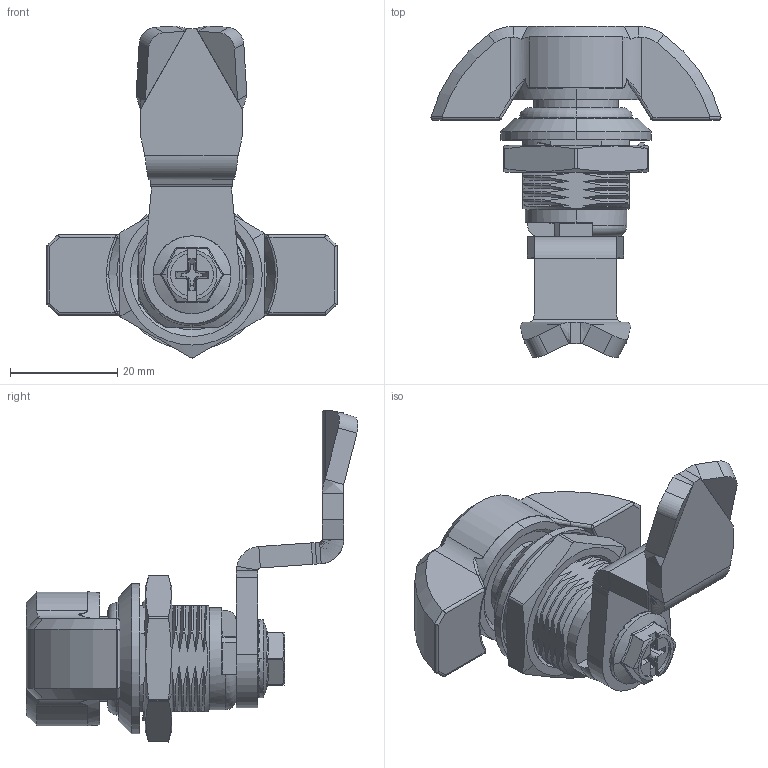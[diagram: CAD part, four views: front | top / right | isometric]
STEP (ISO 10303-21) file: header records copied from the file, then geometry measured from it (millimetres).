
FILE_DESCRIPTION (( 'STEP AP203' ), '1' );
FILE_NAME ('MS705-3P.STEP', '2019-04-17T05:16:22', ( 'Win7' ), ( 'Microsoft' ), 'SwSTEP 2.0', 'SolidWorks 2014', '' );
FILE_SCHEMA (( 'CONFIG_CONTROL_DESIGN' ));
Length unit declared in the file: millimetre
Products named in the file (9): 鞍形垫圈; 12X2; 蹟譫; 蹟隊; 密封圈; MS705-28唅聽_蝸翉; 俋隅弇SUS316詩邡; MS705-3P; 8SJ.MS705-27.0010
Assembly tree (8 placements, depth 2):
  MS705-3P
    8SJ.MS705-27.0010
    鞍形垫圈
    12X2
    蹟譫
    蹟隊
    密封圈
    MS705-28唅聽_蝸翉
    俋隅弇SUS316詩邡
Bounding box: 54.05 x 61.86 x 61.88 mm (x, y, z)
Volume: 25689.6 mm3; surface area: 14878.5 mm2
Topology: 8 solids, 8 shells, 735 faces, 1830 edges, 1111 vertices
Faces by surface type: bspline 300, cylinder 205, plane 154, cone 55, torus 17, sphere 4
Entity records: 44413 total; most frequent: CARTESIAN_POINT 28610, ORIENTED_EDGE 3648, DIRECTION 2399, EDGE_CURVE 1824, VERTEX_POINT 1111, AXIS2_PLACEMENT_3D 926, EDGE_LOOP 753, ADVANCED_FACE 735
